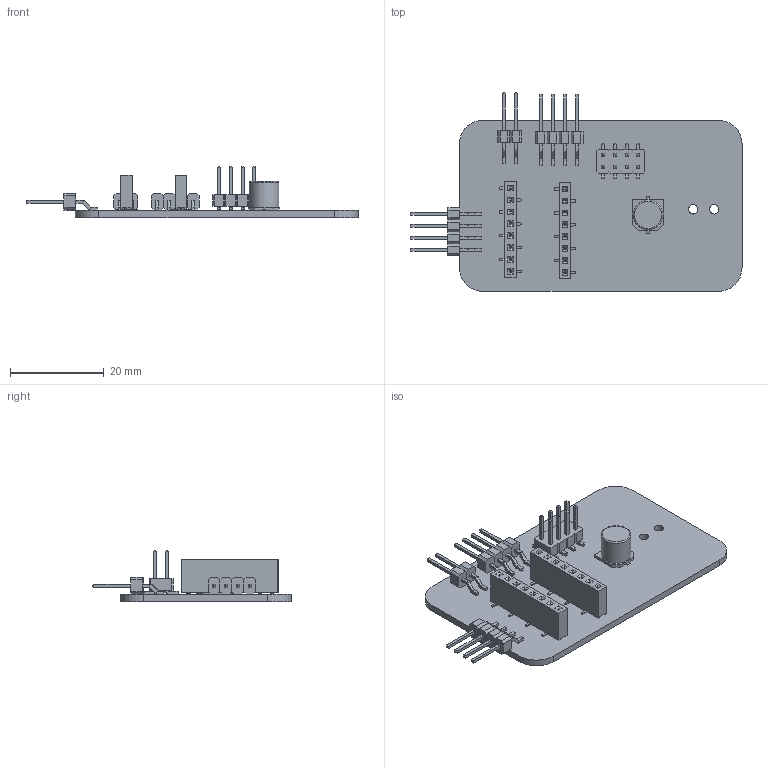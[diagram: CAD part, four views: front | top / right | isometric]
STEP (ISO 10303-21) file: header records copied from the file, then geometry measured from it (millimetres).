
FILE_DESCRIPTION(('KiCad electronic assembly'),'2;1');
FILE_NAME('Stepper_neop_board.step','2025-05-30T21:45:40',('Pcbnew'),( 'Kicad'),'Open CASCADE STEP processor 7.8','KiCad to STEP converter' ,'Unknown');
FILE_SCHEMA(('AUTOMOTIVE_DESIGN { 1 0 10303 214 1 1 1 1 }'));
Length unit declared in the file: millimetre
Products named in the file (15): Stepper_neop_board 1; Capacitor_Panasonic-EEE-FN1E101UL; ContactClone; Contact; Cylinder; Base; Header_SMD_01x04_P2.54mm_Horizontal_Male; Stepper_neop_board 1.2.1; Stepper_neop_board 1.2.2; PinSocket_1x08_P2.54mm_Vertical_SMD_Pin1Left; Header_SMD_01x02_P2.54mm_Horizontal_Male; Stepper_neop_board 1.4.1; Stepper_neop_board 1.4.2; PinHeader_2x04_P2.54mm_Vertical_SMD; Stepper_neop_board_PCB
Assembly tree (16 placements, depth 3):
  Stepper_neop_board 1
    Capacitor_Panasonic-EEE-FN1E101UL
      ContactClone
      Contact
      Cylinder
      Base
    Header_SMD_01x04_P2.54mm_Horizontal_Male  x2
      Stepper_neop_board 1.2.1
      Stepper_neop_board 1.2.2
    PinSocket_1x08_P2.54mm_Vertical_SMD_Pin1Left  x2
    Header_SMD_01x02_P2.54mm_Horizontal_Male
      Stepper_neop_board 1.4.1
      Stepper_neop_board 1.4.2
    PinHeader_2x04_P2.54mm_Vertical_SMD
    Stepper_neop_board_PCB
Bounding box: 70.85 x 42.38 x 10.89 mm (x, y, z)
Volume: 4611.1 mm3; surface area: 7329.5 mm2
Topology: 28 solids, 28 shells, 1152 faces, 2711 edges, 1663 vertices
Faces by surface type: plane 1068, cylinder 63, revolution 20, torus 1
Full cylindrical faces by diameter (mm): 2 x2, 6.3 x1
Entity records: 24805 total; most frequent: CARTESIAN_POINT 3537, ORIENTED_EDGE 3438, DIRECTION 3325, EDGE_CURVE 1719, LINE 1627, VECTOR 1627, VERTEX_POINT 1055, AXIS2_PLACEMENT_3D 843
